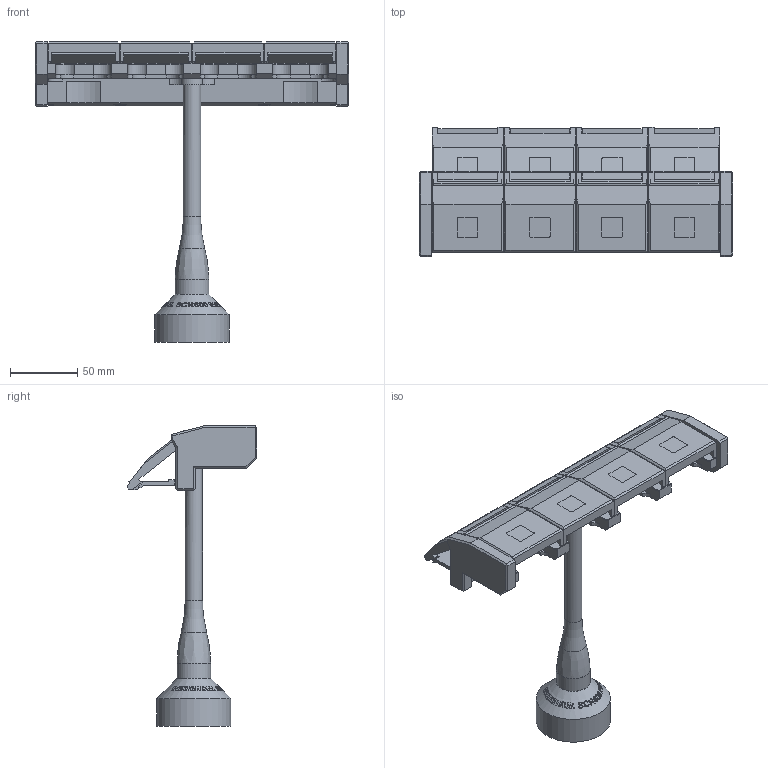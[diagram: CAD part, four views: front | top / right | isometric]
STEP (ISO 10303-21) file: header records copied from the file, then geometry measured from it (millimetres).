
FILE_DESCRIPTION(/* description */ (''),/* implementation_level */ '2;1');
FILE_NAME(/* name */ 'LA-2098-0724#-C.stp',/* time_stamp */ '2012-09-07T10:20:02+01:00',/* author */ (''),/* organization */ (''),/* preprocessor_version */ 'ST-DEVELOPER v11',/* originating_system */ 'SIEMENS PLM Software NX 7.5',/* authorisation */ '');
FILE_SCHEMA (('AUTOMOTIVE_DESIGN { 1 0 10303 214 1 1 1 1 }'));
Length unit declared in the file: millimetre
Products named in the file (1): rt13371Ayv3e
Bounding box: 232.75 x 96.07 x 222.83 mm (x, y, z)
Volume: 428446.3 mm3; surface area: 150729.5 mm2
Topology: 17 solids, 17 shells, 726 faces, 2479 edges, 1826 vertices
Faces by surface type: plane 540, cylinder 112, bspline 41, cone 32, torus 1
Full cylindrical faces by diameter (mm): 12.95 x1, 24.95 x1, 55 x1
Entity records: 33079 total; most frequent: CARTESIAN_POINT 6939, ORIENTED_EDGE 4922, DIRECTION 3592, EDGE_CURVE 2461, VERTEX_POINT 1816, LINE 1698, VECTOR 1698, AXIS2_PLACEMENT_3D 947
